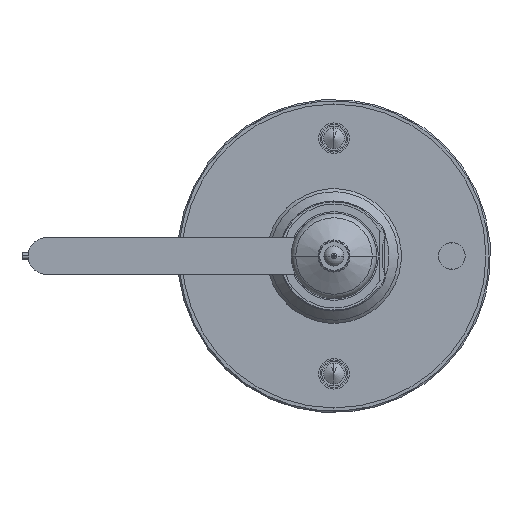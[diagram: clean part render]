
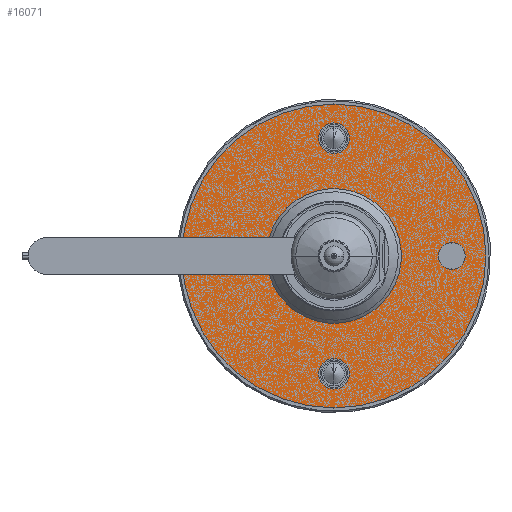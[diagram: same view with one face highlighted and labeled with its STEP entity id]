
A CAD part, front view. The second image highlights one B-rep face of the part: STEP entity #16071.
In plain terms, the highlighted planar face has unit normal (0, -1, 0) as drawn and (0, 0, -1) by its records, which use the part's own axes.
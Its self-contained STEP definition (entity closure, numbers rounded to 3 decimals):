
#142 = DIRECTION ( 'NONE',  ( 0., 0., 1. ) ) ;
#301 = DIRECTION ( 'NONE',  ( 1., 0., 0. ) ) ;
#401 = CIRCLE ( 'NONE', #4057, 16.5 ) ;
#1234 = ORIENTED_EDGE ( 'NONE', *, *, #11091, .T. ) ;
#1256 = CARTESIAN_POINT ( 'NONE',  ( -4.4, -38.5, 0. ) ) ;
#1320 = CARTESIAN_POINT ( 'NONE',  ( 0., 38.5, 0. ) ) ;
#1427 = DIRECTION ( 'NONE',  ( 0., 0., 1. ) ) ;
#1458 = DIRECTION ( 'NONE',  ( 0., 0., -1. ) ) ;
#1623 = CIRCLE ( 'NONE', #19574, 49.675 ) ;
#1974 = AXIS2_PLACEMENT_3D ( 'NONE', #19613, #15264, #13101 ) ;
#2068 = PLANE ( 'NONE',  #5912 ) ;
#2505 = DIRECTION ( 'NONE',  ( -1., 0., 0. ) ) ;
#2541 = EDGE_CURVE ( 'NONE', #18003, #25232, #23026, .T. ) ;
#3243 = CARTESIAN_POINT ( 'NONE',  ( -33.5, 0., 0. ) ) ;
#3307 = EDGE_CURVE ( 'NONE', #20404, #3561, #22244, .T. ) ;
#3561 = VERTEX_POINT ( 'NONE', #21035 ) ;
#4057 = AXIS2_PLACEMENT_3D ( 'NONE', #24935, #11365, #301 ) ;
#4263 = ORIENTED_EDGE ( 'NONE', *, *, #20786, .T. ) ;
#5314 = CARTESIAN_POINT ( 'NONE',  ( 0., 38.5, 0. ) ) ;
#5505 = EDGE_CURVE ( 'NONE', #10198, #16109, #20903, .T. ) ;
#5779 = DIRECTION ( 'NONE',  ( -1., 0., 0. ) ) ;
#5912 = AXIS2_PLACEMENT_3D ( 'NONE', #17324, #6354, #19643 ) ;
#6022 = AXIS2_PLACEMENT_3D ( 'NONE', #7629, #25242, #25380 ) ;
#6354 = DIRECTION ( 'NONE',  ( 0., 0., -1. ) ) ;
#6632 = CARTESIAN_POINT ( 'NONE',  ( 43.5, 0., 0. ) ) ;
#6751 = EDGE_LOOP ( 'NONE', ( #13817, #8314 ) ) ;
#6778 = DIRECTION ( 'NONE',  ( 0., 0., -1. ) ) ;
#7178 = ORIENTED_EDGE ( 'NONE', *, *, #24708, .T. ) ;
#7354 = ORIENTED_EDGE ( 'NONE', *, *, #25217, .T. ) ;
#7476 = AXIS2_PLACEMENT_3D ( 'NONE', #5314, #1427, #12476 ) ;
#7532 = DIRECTION ( 'NONE',  ( -1., 0., 0. ) ) ;
#7629 = CARTESIAN_POINT ( 'NONE',  ( -38.5, 0., 0. ) ) ;
#7894 = EDGE_CURVE ( 'NONE', #12028, #15843, #11911, .T. ) ;
#8124 = VERTEX_POINT ( 'NONE', #17086 ) ;
#8312 = CIRCLE ( 'NONE', #6022, 5. ) ;
#8314 = ORIENTED_EDGE ( 'NONE', *, *, #15325, .T. ) ;
#8348 = CIRCLE ( 'NONE', #10656, 4.4 ) ;
#8480 = CARTESIAN_POINT ( 'NONE',  ( 33.5, 0., 0. ) ) ;
#8509 = FACE_BOUND ( 'NONE', #6751, .T. ) ;
#8691 = CARTESIAN_POINT ( 'NONE',  ( -43.5, 0., 0. ) ) ;
#8744 = AXIS2_PLACEMENT_3D ( 'NONE', #22049, #142, #17844 ) ;
#9166 = DIRECTION ( 'NONE',  ( 0., 0., 1. ) ) ;
#9288 = DIRECTION ( 'NONE',  ( -1., 0., 0. ) ) ;
#9440 = VERTEX_POINT ( 'NONE', #27659 ) ;
#9519 = ORIENTED_EDGE ( 'NONE', *, *, #22391, .T. ) ;
#9682 = DIRECTION ( 'NONE',  ( 0., 0., 1. ) ) ;
#9710 = VERTEX_POINT ( 'NONE', #1256 ) ;
#10198 = VERTEX_POINT ( 'NONE', #8480 ) ;
#10545 = AXIS2_PLACEMENT_3D ( 'NONE', #21064, #1458, #25240 ) ;
#10656 = AXIS2_PLACEMENT_3D ( 'NONE', #11584, #9682, #7532 ) ;
#10669 = FACE_BOUND ( 'NONE', #24996, .T. ) ;
#10934 = EDGE_LOOP ( 'NONE', ( #13272, #7354 ) ) ;
#10980 = CIRCLE ( 'NONE', #23439, 4.4 ) ;
#11026 = VERTEX_POINT ( 'NONE', #13843 ) ;
#11091 = EDGE_CURVE ( 'NONE', #25232, #18003, #1623, .T. ) ;
#11365 = DIRECTION ( 'NONE',  ( 0., 0., 1. ) ) ;
#11584 = CARTESIAN_POINT ( 'NONE',  ( 0., -38.5, 0. ) ) ;
#11837 = CARTESIAN_POINT ( 'NONE',  ( 0., 0., 0. ) ) ;
#11911 = CIRCLE ( 'NONE', #27590, 5. ) ;
#12028 = VERTEX_POINT ( 'NONE', #8691 ) ;
#12183 = ORIENTED_EDGE ( 'NONE', *, *, #21506, .T. ) ;
#12476 = DIRECTION ( 'NONE',  ( -1., 0., 0. ) ) ;
#13101 = DIRECTION ( 'NONE',  ( -1., 0., 0. ) ) ;
#13272 = ORIENTED_EDGE ( 'NONE', *, *, #5505, .T. ) ;
#13817 = ORIENTED_EDGE ( 'NONE', *, *, #3307, .T. ) ;
#13843 = CARTESIAN_POINT ( 'NONE',  ( 16.5, 0., 0. ) ) ;
#13890 = CARTESIAN_POINT ( 'NONE',  ( -49.675, 0., 0. ) ) ;
#15191 = EDGE_LOOP ( 'NONE', ( #1234, #18320 ) ) ;
#15264 = DIRECTION ( 'NONE',  ( 0., 0., 1. ) ) ;
#15325 = EDGE_CURVE ( 'NONE', #3561, #20404, #10980, .T. ) ;
#15721 = FACE_OUTER_BOUND ( 'NONE', #15191, .T. ) ;
#15840 = CARTESIAN_POINT ( 'NONE',  ( 49.675, 0., 0. ) ) ;
#15843 = VERTEX_POINT ( 'NONE', #3243 ) ;
#16071 = ADVANCED_FACE ( 'NONE', ( #15721, #24546, #8509, #26140, #10669, #19490 ), #2068, .T. ) ;
#16109 = VERTEX_POINT ( 'NONE', #6632 ) ;
#16599 = EDGE_LOOP ( 'NONE', ( #24707, #4263 ) ) ;
#17045 = CIRCLE ( 'NONE', #8744, 4.4 ) ;
#17086 = CARTESIAN_POINT ( 'NONE',  ( -16.5, 0., 0. ) ) ;
#17324 = CARTESIAN_POINT ( 'NONE',  ( 16.5, 0., 0. ) ) ;
#17844 = DIRECTION ( 'NONE',  ( -1., 0., 0. ) ) ;
#18003 = VERTEX_POINT ( 'NONE', #13890 ) ;
#18320 = ORIENTED_EDGE ( 'NONE', *, *, #2541, .T. ) ;
#18460 = DIRECTION ( 'NONE',  ( -1., 0., 0. ) ) ;
#18902 = EDGE_CURVE ( 'NONE', #11026, #8124, #401, .T. ) ;
#19490 = FACE_BOUND ( 'NONE', #16599, .T. ) ;
#19496 = AXIS2_PLACEMENT_3D ( 'NONE', #26626, #24461, #9288 ) ;
#19574 = AXIS2_PLACEMENT_3D ( 'NONE', #11837, #6778, #2505 ) ;
#19613 = CARTESIAN_POINT ( 'NONE',  ( 38.5, 0., 0. ) ) ;
#19643 = DIRECTION ( 'NONE',  ( -1., 0., 0. ) ) ;
#20160 = CARTESIAN_POINT ( 'NONE',  ( 0., 0., 0. ) ) ;
#20404 = VERTEX_POINT ( 'NONE', #21323 ) ;
#20786 = EDGE_CURVE ( 'NONE', #8124, #11026, #27532, .T. ) ;
#20903 = CIRCLE ( 'NONE', #19496, 5. ) ;
#21035 = CARTESIAN_POINT ( 'NONE',  ( 4.4, 38.5, 0. ) ) ;
#21064 = CARTESIAN_POINT ( 'NONE',  ( 0., 0., 0. ) ) ;
#21076 = AXIS2_PLACEMENT_3D ( 'NONE', #20160, #9166, #26787 ) ;
#21323 = CARTESIAN_POINT ( 'NONE',  ( -4.4, 38.5, 0. ) ) ;
#21506 = EDGE_CURVE ( 'NONE', #9440, #9710, #17045, .T. ) ;
#22049 = CARTESIAN_POINT ( 'NONE',  ( 0., -38.5, 0. ) ) ;
#22244 = CIRCLE ( 'NONE', #7476, 4.4 ) ;
#22391 = EDGE_CURVE ( 'NONE', #15843, #12028, #8312, .T. ) ;
#23026 = CIRCLE ( 'NONE', #10545, 49.675 ) ;
#23325 = ORIENTED_EDGE ( 'NONE', *, *, #7894, .T. ) ;
#23439 = AXIS2_PLACEMENT_3D ( 'NONE', #1320, #25382, #18460 ) ;
#24461 = DIRECTION ( 'NONE',  ( 0., 0., 1. ) ) ;
#24546 = FACE_BOUND ( 'NONE', #28431, .T. ) ;
#24707 = ORIENTED_EDGE ( 'NONE', *, *, #18902, .T. ) ;
#24708 = EDGE_CURVE ( 'NONE', #9710, #9440, #8348, .T. ) ;
#24935 = CARTESIAN_POINT ( 'NONE',  ( 0., 0., 0. ) ) ;
#24985 = CIRCLE ( 'NONE', #1974, 5. ) ;
#24996 = EDGE_LOOP ( 'NONE', ( #23325, #9519 ) ) ;
#25217 = EDGE_CURVE ( 'NONE', #16109, #10198, #24985, .T. ) ;
#25232 = VERTEX_POINT ( 'NONE', #15840 ) ;
#25240 = DIRECTION ( 'NONE',  ( -1., 0., 0. ) ) ;
#25242 = DIRECTION ( 'NONE',  ( 0., 0., 1. ) ) ;
#25380 = DIRECTION ( 'NONE',  ( -1., 0., 0. ) ) ;
#25382 = DIRECTION ( 'NONE',  ( 0., 0., 1. ) ) ;
#25547 = DIRECTION ( 'NONE',  ( 0., 0., 1. ) ) ;
#26140 = FACE_BOUND ( 'NONE', #10934, .T. ) ;
#26626 = CARTESIAN_POINT ( 'NONE',  ( 38.5, 0., 0. ) ) ;
#26787 = DIRECTION ( 'NONE',  ( 1., 0., 0. ) ) ;
#27158 = CARTESIAN_POINT ( 'NONE',  ( -38.5, 0., 0. ) ) ;
#27532 = CIRCLE ( 'NONE', #21076, 16.5 ) ;
#27590 = AXIS2_PLACEMENT_3D ( 'NONE', #27158, #25547, #5779 ) ;
#27659 = CARTESIAN_POINT ( 'NONE',  ( 4.4, -38.5, 0. ) ) ;
#28431 = EDGE_LOOP ( 'NONE', ( #7178, #12183 ) ) ;
